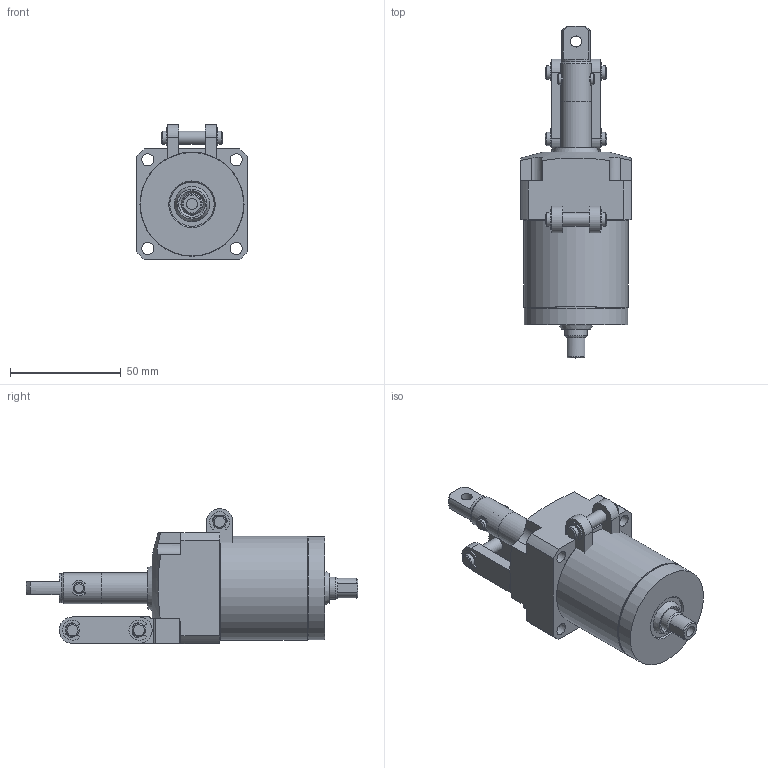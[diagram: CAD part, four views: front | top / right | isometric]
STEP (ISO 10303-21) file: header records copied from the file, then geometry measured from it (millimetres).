
FILE_DESCRIPTION( ( '' ), '1' );
FILE_NAME( 'W:/Catalogue/JL5H/JL5H28-22KRD/JL5H28-22KRD.stp', '2008-05-26T01:20:35', ( '機械事業部産業機器グループ' ), ( '豊和工業株式会社' ), 'XStep 1.0', ' ', ' ' );
FILE_SCHEMA( ( 'CONFIG_CONTROL_DESIGN' ) );
Length unit declared in the file: millimetre
Products named in the file (5): Assem1; 1; 2; 3; 4
Bounding box: 50 x 150 x 61 mm (x, y, z)
Volume: 297048 mm3; surface area: 75775.9 mm2
Topology: 8 solids, 12 shells, 572 faces, 1482 edges, 972 vertices
Faces by surface type: plane 280, cylinder 232, cone 56, torus 4
Full cylindrical faces by diameter (mm): 2 x2, 3 x4, 4 x8, 5 x10, 5.5 x8, 6 x14, 8.3 x4, 10 x4, 11 x2, 13 x2, 14 x4, 14.6 x2, 16 x2, 20 x6, 24 x4, 28 x4, 46 x4, 46.7 x2, 47 x2
Entity records: 8577 total; most frequent: CARTESIAN_POINT 1531, DIRECTION 1509, ORIENTED_EDGE 1278, EDGE_CURVE 639, AXIS2_PLACEMENT_3D 600, VERTEX_POINT 456, EDGE_LOOP 402, FACE_OUTER_BOUND 332
